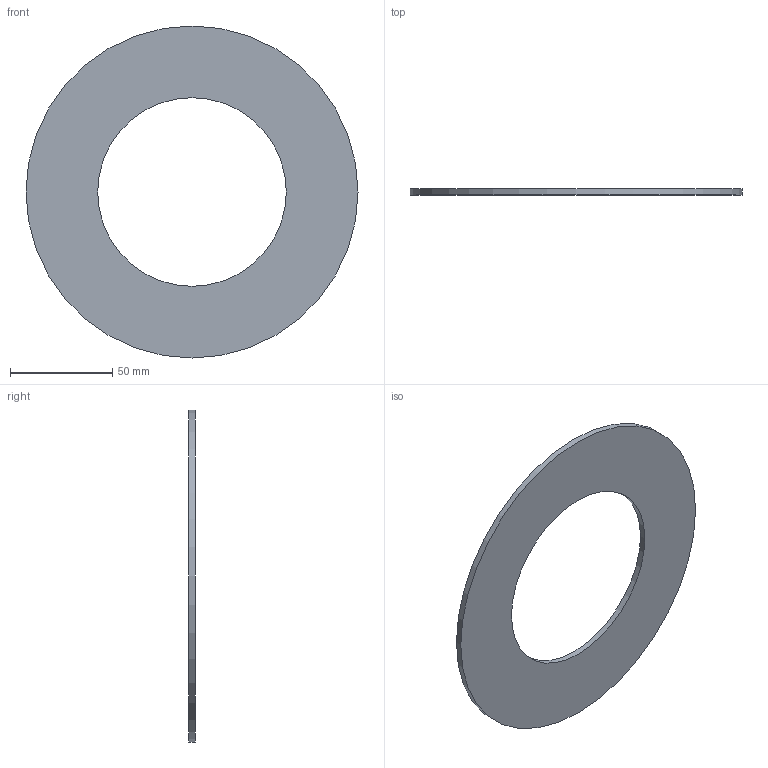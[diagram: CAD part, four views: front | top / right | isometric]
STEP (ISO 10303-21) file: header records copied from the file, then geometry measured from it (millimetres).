
FILE_DESCRIPTION(/* description */ ('Unknown'),/* implementation_level */ '2;1');
FILE_NAME(/* name */ 'GUA.110C',/* time_stamp */ '2021-04-01T11:32:16+02:00',/* author */ ('Unknown'),/* organization */ ('Unknown'),/* preprocessor_version */ 'ST-DEVELOPER v16.7',/* originating_system */ 'Solid Edge',/* authorisation */ 'Unknown');
FILE_SCHEMA (('AUTOMOTIVE_DESIGN {1 0 10303 214 3 1 1}'));
Length unit declared in the file: millimetre
Products named in the file (1): GUA.110C
Bounding box: 162 x 3 x 162 mm (x, y, z)
Volume: 41893.1 mm3; surface area: 30322.7 mm2
Topology: 1 solids, 1 shells, 4 faces, 6 edges, 4 vertices
Faces by surface type: cylinder 2, plane 2
Full cylindrical faces by diameter (mm): 92 x1, 162 x1
Entity records: 118 total; most frequent: DIRECTION 18, CARTESIAN_POINT 13, AXIS2_PLACEMENT_3D 9, ORIENTED_EDGE 8, EDGE_LOOP 8, FACE_BOUND 8, EDGE_CURVE 4, VERTEX_POINT 4
